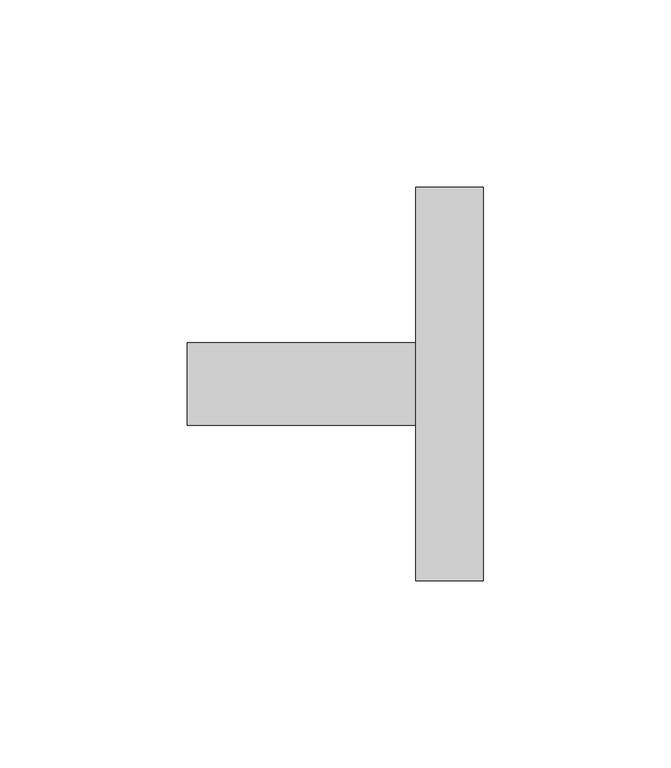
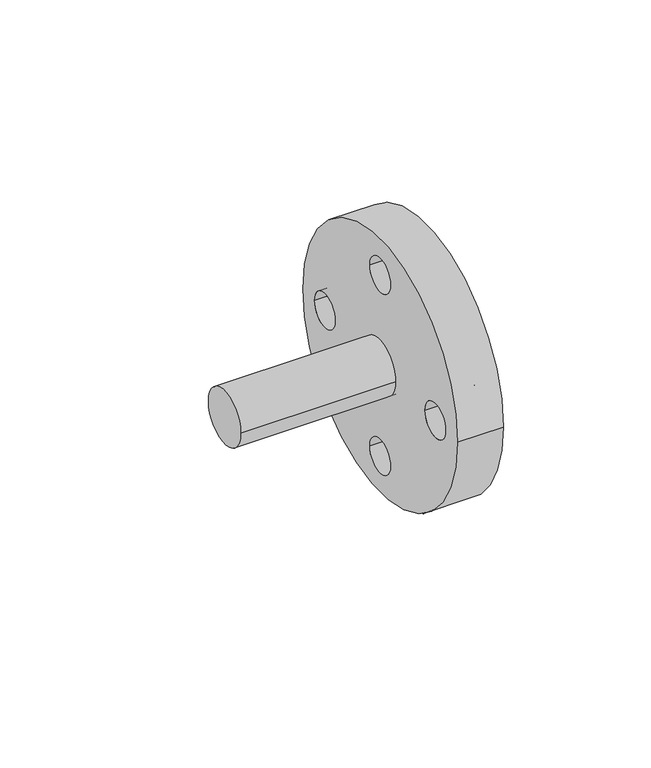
"""IFC4 building model written with IfcOpenShell, lengths in millimetres: pipe fitting geometry, NLRS_50_PIF_UN_Geberit Mapress rvs flens PN 10_16, met insteekeinde_PRO_332665 : DN50-100 / d54-108 - OD."""

from ifc_helpers import new_model, si_unit, point, frame, frame_2d, origin, origin_2d, place, context, project, spatial, circle_curve, trimmed, segment, composite_curve, outline, extrude, source, transform, mapped, element, save


def pipe_fitting_02f2142c(model_context):
    return source(origin(), model_context, "Body", "SweptSolid", [
        extrude(outline(composite_curve([segment(trimmed(circle_curve(origin_2d(), 52.5), [point((-52.5, 0.0))], [point((52.5, 0.0))], False, "CARTESIAN"), True, "CONTINUOUS"), segment(trimmed(circle_curve(origin_2d(), 52.5), [point((52.5, 0.0))], [point((-52.5, 0.0))], False, "CARTESIAN"), True, "CONTINUOUS")], self_intersect=False), holes=[composite_curve([segment(trimmed(circle_curve(frame_2d((0.0, -37.5)), 7.0), [point((-7.0, -37.5))], [point((7.0, -37.5))], True, "CARTESIAN"), True, "CONTINUOUS"), segment(trimmed(circle_curve(frame_2d((0.0, -37.5)), 7.0), [point((7.0, -37.5))], [point((-7.0, -37.5))], True, "CARTESIAN"), True, "CONTINUOUS")], self_intersect=False), composite_curve([segment(trimmed(circle_curve(frame_2d((0.0, 37.5)), 7.0), [point((-7.0, 37.5))], [point((7.0, 37.5))], True, "CARTESIAN"), True, "CONTINUOUS"), segment(trimmed(circle_curve(frame_2d((0.0, 37.5)), 7.0), [point((7.0, 37.5))], [point((-7.0, 37.5))], True, "CARTESIAN"), True, "CONTINUOUS")], self_intersect=False), composite_curve([segment(trimmed(circle_curve(origin_2d(), 9.5), [point((-9.5, 0.0))], [point((9.5, 0.0))], True, "CARTESIAN"), True, "CONTINUOUS"), segment(trimmed(circle_curve(origin_2d(), 9.5), [point((9.5, 0.0))], [point((-9.5, 0.0))], True, "CARTESIAN"), True, "CONTINUOUS")], self_intersect=False), composite_curve([segment(trimmed(circle_curve(frame_2d((37.5, 0.0)), 7.0), [point((30.5, 0.0))], [point((44.5, 0.0))], True, "CARTESIAN"), True, "CONTINUOUS"), segment(trimmed(circle_curve(frame_2d((37.5, 0.0)), 7.0), [point((44.5, 0.0))], [point((30.5, 0.0))], True, "CARTESIAN"), True, "CONTINUOUS")], self_intersect=False), composite_curve([segment(trimmed(circle_curve(frame_2d((-37.5, 0.0)), 7.0), [point((-44.5, 0.0))], [point((-30.5, 0.0))], True, "CARTESIAN"), True, "CONTINUOUS"), segment(trimmed(circle_curve(frame_2d((-37.5, 0.0)), 7.0), [point((-30.5, 0.0))], [point((-44.5, 0.0))], True, "CARTESIAN"), True, "CONTINUOUS")], self_intersect=False)]), frame((-9.0, 0.0, 0.0), z_axis=(1.0, 0.0, 0.0), x_axis=(0.0, 1.0, 0.0)), (0.0, 0.0, 1.0), 18.0),
        extrude(outline(composite_curve([segment(trimmed(circle_curve(origin_2d(), 11.0), [point((-11.0, 0.0))], [point((11.0, 0.0))], False, "CARTESIAN"), True, "CONTINUOUS"), segment(trimmed(circle_curve(origin_2d(), 11.0), [point((11.0, 0.0))], [point((-11.0, 0.0))], False, "CARTESIAN"), True, "CONTINUOUS")], self_intersect=False)), frame((-70.0, 0.0, 0.0), z_axis=(1.0, 0.0, 0.0), x_axis=(0.0, 1.0, 0.0)), (0.0, 0.0, 1.0), 79.0),
    ])


if __name__ == "__main__":
    model = new_model("IFC4")
    model_context = context("Model", 3, world=origin())
    ifc_project = project(units=[si_unit("LENGTHUNIT", "METRE", prefix="MILLI")], contexts=[model_context])
    site = spatial("IfcSite", under=ifc_project)
    building = spatial("IfcBuilding", under=site)
    placement = place(None, origin())
    pipe_fitting_shape = pipe_fitting_02f2142c(model_context)
    element("IfcPipeFitting", 1, ObjectType="NLRS_50_PIF_UN_Geberit Mapress rvs flens PN 10_16, met insteekeinde_PRO_332665 : DN50-100 / d54-108 - OD", at=placement, inside=building, context=model_context, shape_type="MappedRepresentation", body=[
        mapped(pipe_fitting_shape, transform((0.0, 0.0, 0.0), x_axis=(1.0, 0.0, 0.0), y_axis=(0.0, 1.0, 0.0), z_axis=(0.0, 0.0, 1.0))),
    ])
    save(model, "model.ifc")
